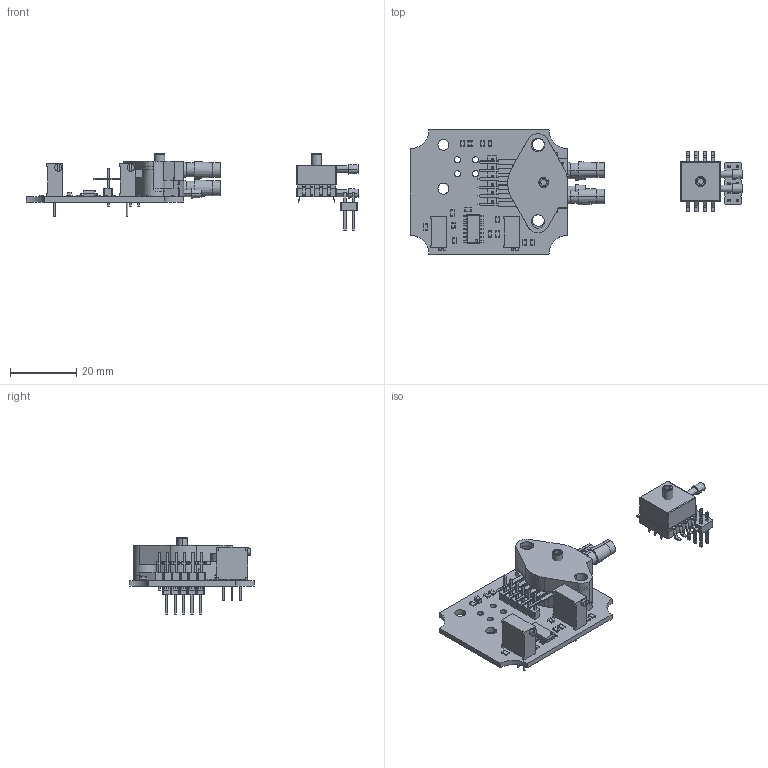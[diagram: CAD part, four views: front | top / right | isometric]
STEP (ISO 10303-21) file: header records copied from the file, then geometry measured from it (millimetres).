
FILE_DESCRIPTION(('KiCad electronic assembly'),'2;1');
FILE_NAME('EAR ECU MultiPx_00.step','2020-05-02T17:53:17',('An Author'), ('A Company'),'Open CASCADE STEP processor 6.9', 'KiCad to STEP converter','Unknown');
FILE_SCHEMA(('AUTOMOTIVE_DESIGN { 1 0 10303 214 1 1 1 1 }'));
Length unit declared in the file: millimetre
Products named in the file (24): Open CASCADE STEP translator 6.9 1; PinHeader_2x05_P2.54mm_Vertical; SOLID; PinHeader_2x05_P2.54mm_Horizontal; MP3V5010_482A; MP3V5010_1351; MPS20N0040-D; MPX5010; COMPOUND; PinHeader_1x06_P2.54mm_Vertical; Potentiometer_Bourns_3296X_Horizontal; SOIC-14_3.9x8.7mm_P1.27mm; R_0805_2012Metric; C_0805_2012Metric
Assembly tree (38 placements, depth 3):
  Open CASCADE STEP translator 6.9 1
    PinHeader_2x05_P2.54mm_Vertical
      SOLID
    PinHeader_2x05_P2.54mm_Horizontal
      SOLID
    MP3V5010_482A  x2
      SOLID
    MP3V5010_1351  x2
      SOLID
    MPS20N0040-D
      SOLID
    MPX5010
      COMPOUND
    PinHeader_1x06_P2.54mm_Vertical
      SOLID
    Potentiometer_Bourns_3296X_Horizontal  x2
      SOLID
    SOIC-14_3.9x8.7mm_P1.27mm
      SOLID
    R_0805_2012Metric  x12
      SOLID
    C_0805_2012Metric  x2
      SOLID
    COMPOUND
Bounding box: 100.13 x 37.47 x 23.25 mm (x, y, z)
Volume: 8546.3 mm3; surface area: 13243.2 mm2
Topology: 26 solids, 28 shells, 2264 faces, 5869 edges, 3744 vertices
Faces by surface type: plane 1652, cylinder 495, bspline 40, cone 32, torus 27, sphere 18
Full cylindrical faces by diameter (mm): 0.51 x6, 0.6 x1, 0.8 x6, 1 x16, 1.85 x4, 2.19 x2, 3.3 x2, 3.5 x2
Entity records: 115176 total; most frequent: CARTESIAN_POINT 21212, DIRECTION 15694, LINE 10822, VECTOR 10822, ORIENTED_EDGE 8226, PCURVE 8226, DEFINITIONAL_REPRESENTATION 8226, EDGE_CURVE 4163
